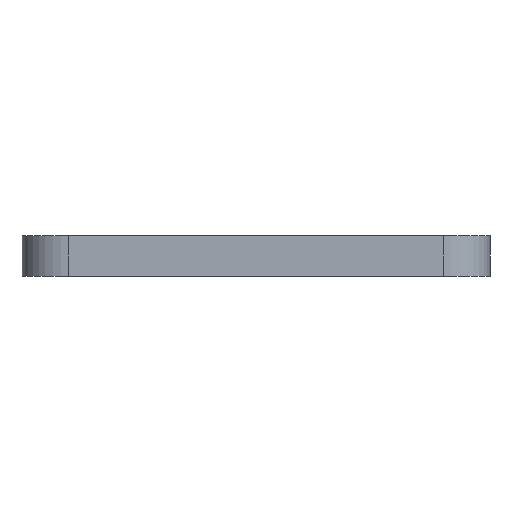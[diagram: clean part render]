
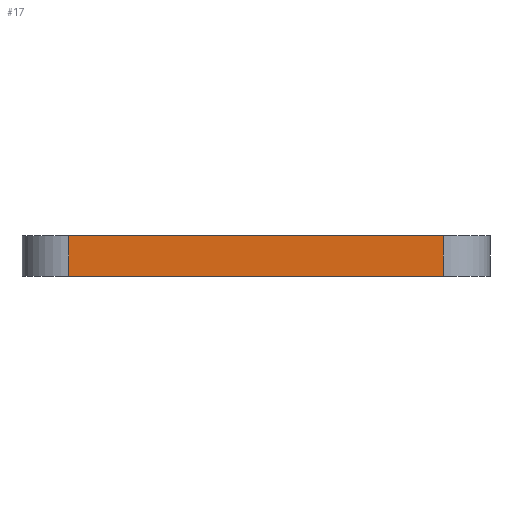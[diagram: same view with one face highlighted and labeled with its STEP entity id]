
A CAD part, left-side view. The second image highlights one B-rep face of the part: STEP entity #17.
In plain terms, the highlighted planar face has unit normal (-1, 0, 0).
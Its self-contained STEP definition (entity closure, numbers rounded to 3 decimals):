
#17 = ADVANCED_FACE('',(#18),#32,.F.);
#18 = FACE_BOUND('',#19,.F.);
#19 = EDGE_LOOP('',(#20,#55,#83,#111));
#20 = ORIENTED_EDGE('',*,*,#21,.F.);
#21 = EDGE_CURVE('',#22,#24,#26,.T.);
#22 = VERTEX_POINT('',#23);
#23 = CARTESIAN_POINT('',(-11.,-3.2,0.35));
#24 = VERTEX_POINT('',#25);
#25 = CARTESIAN_POINT('',(-11.,3.2,0.35));
#26 = SURFACE_CURVE('',#27,(#31,#43),.PCURVE_S1.);
#27 = LINE('',#28,#29);
#28 = CARTESIAN_POINT('',(-11.,-4.,0.35));
#29 = VECTOR('',#30,1.);
#30 = DIRECTION('',(0.,1.,0.));
#31 = PCURVE('',#32,#37);
#32 = PLANE('',#33);
#33 = AXIS2_PLACEMENT_3D('',#34,#35,#36);
#34 = CARTESIAN_POINT('',(-11.,-4.,-0.35));
#35 = DIRECTION('',(1.,0.,0.));
#36 = DIRECTION('',(0.,0.,1.));
#37 = DEFINITIONAL_REPRESENTATION('',(#38),#42);
#38 = LINE('',#39,#40);
#39 = CARTESIAN_POINT('',(0.7,0.));
#40 = VECTOR('',#41,1.);
#41 = DIRECTION('',(0.,-1.));
#42 = ( GEOMETRIC_REPRESENTATION_CONTEXT(2) 
PARAMETRIC_REPRESENTATION_CONTEXT() REPRESENTATION_CONTEXT('2D SPACE',''
  ) );
#43 = PCURVE('',#44,#49);
#44 = PLANE('',#45);
#45 = AXIS2_PLACEMENT_3D('',#46,#47,#48);
#46 = CARTESIAN_POINT('',(-11.,-4.,0.35));
#47 = DIRECTION('',(0.,0.,1.));
#48 = DIRECTION('',(1.,0.,0.));
#49 = DEFINITIONAL_REPRESENTATION('',(#50),#54);
#50 = LINE('',#51,#52);
#51 = CARTESIAN_POINT('',(0.,0.));
#52 = VECTOR('',#53,1.);
#53 = DIRECTION('',(0.,1.));
#54 = ( GEOMETRIC_REPRESENTATION_CONTEXT(2) 
PARAMETRIC_REPRESENTATION_CONTEXT() REPRESENTATION_CONTEXT('2D SPACE',''
  ) );
#55 = ORIENTED_EDGE('',*,*,#56,.F.);
#56 = EDGE_CURVE('',#57,#22,#59,.T.);
#57 = VERTEX_POINT('',#58);
#58 = CARTESIAN_POINT('',(-11.,-3.2,-0.35));
#59 = SURFACE_CURVE('',#60,(#64,#71),.PCURVE_S1.);
#60 = LINE('',#61,#62);
#61 = CARTESIAN_POINT('',(-11.,-3.2,-0.35));
#62 = VECTOR('',#63,1.);
#63 = DIRECTION('',(0.,0.,1.));
#64 = PCURVE('',#32,#65);
#65 = DEFINITIONAL_REPRESENTATION('',(#66),#70);
#66 = LINE('',#67,#68);
#67 = CARTESIAN_POINT('',(0.,-0.8));
#68 = VECTOR('',#69,1.);
#69 = DIRECTION('',(1.,0.));
#70 = ( GEOMETRIC_REPRESENTATION_CONTEXT(2) 
PARAMETRIC_REPRESENTATION_CONTEXT() REPRESENTATION_CONTEXT('2D SPACE',''
  ) );
#71 = PCURVE('',#72,#77);
#72 = CYLINDRICAL_SURFACE('',#73,0.8);
#73 = AXIS2_PLACEMENT_3D('',#74,#75,#76);
#74 = CARTESIAN_POINT('',(-10.2,-3.2,-0.35));
#75 = DIRECTION('',(0.,0.,1.));
#76 = DIRECTION('',(-1.,-0.,0.));
#77 = DEFINITIONAL_REPRESENTATION('',(#78),#82);
#78 = LINE('',#79,#80);
#79 = CARTESIAN_POINT('',(0.,0.));
#80 = VECTOR('',#81,1.);
#81 = DIRECTION('',(0.,1.));
#82 = ( GEOMETRIC_REPRESENTATION_CONTEXT(2) 
PARAMETRIC_REPRESENTATION_CONTEXT() REPRESENTATION_CONTEXT('2D SPACE',''
  ) );
#83 = ORIENTED_EDGE('',*,*,#84,.T.);
#84 = EDGE_CURVE('',#57,#85,#87,.T.);
#85 = VERTEX_POINT('',#86);
#86 = CARTESIAN_POINT('',(-11.,3.2,-0.35));
#87 = SURFACE_CURVE('',#88,(#92,#99),.PCURVE_S1.);
#88 = LINE('',#89,#90);
#89 = CARTESIAN_POINT('',(-11.,-4.,-0.35));
#90 = VECTOR('',#91,1.);
#91 = DIRECTION('',(0.,1.,0.));
#92 = PCURVE('',#32,#93);
#93 = DEFINITIONAL_REPRESENTATION('',(#94),#98);
#94 = LINE('',#95,#96);
#95 = CARTESIAN_POINT('',(0.,0.));
#96 = VECTOR('',#97,1.);
#97 = DIRECTION('',(0.,-1.));
#98 = ( GEOMETRIC_REPRESENTATION_CONTEXT(2) 
PARAMETRIC_REPRESENTATION_CONTEXT() REPRESENTATION_CONTEXT('2D SPACE',''
  ) );
#99 = PCURVE('',#100,#105);
#100 = PLANE('',#101);
#101 = AXIS2_PLACEMENT_3D('',#102,#103,#104);
#102 = CARTESIAN_POINT('',(-11.,-4.,-0.35));
#103 = DIRECTION('',(0.,0.,1.));
#104 = DIRECTION('',(1.,0.,0.));
#105 = DEFINITIONAL_REPRESENTATION('',(#106),#110);
#106 = LINE('',#107,#108);
#107 = CARTESIAN_POINT('',(0.,0.));
#108 = VECTOR('',#109,1.);
#109 = DIRECTION('',(0.,1.));
#110 = ( GEOMETRIC_REPRESENTATION_CONTEXT(2) 
PARAMETRIC_REPRESENTATION_CONTEXT() REPRESENTATION_CONTEXT('2D SPACE',''
  ) );
#111 = ORIENTED_EDGE('',*,*,#112,.T.);
#112 = EDGE_CURVE('',#85,#24,#113,.T.);
#113 = SURFACE_CURVE('',#114,(#118,#125),.PCURVE_S1.);
#114 = LINE('',#115,#116);
#115 = CARTESIAN_POINT('',(-11.,3.2,-0.35));
#116 = VECTOR('',#117,1.);
#117 = DIRECTION('',(0.,0.,1.));
#118 = PCURVE('',#32,#119);
#119 = DEFINITIONAL_REPRESENTATION('',(#120),#124);
#120 = LINE('',#121,#122);
#121 = CARTESIAN_POINT('',(0.,-7.2));
#122 = VECTOR('',#123,1.);
#123 = DIRECTION('',(1.,0.));
#124 = ( GEOMETRIC_REPRESENTATION_CONTEXT(2) 
PARAMETRIC_REPRESENTATION_CONTEXT() REPRESENTATION_CONTEXT('2D SPACE',''
  ) );
#125 = PCURVE('',#126,#131);
#126 = CYLINDRICAL_SURFACE('',#127,0.8);
#127 = AXIS2_PLACEMENT_3D('',#128,#129,#130);
#128 = CARTESIAN_POINT('',(-10.2,3.2,-0.35));
#129 = DIRECTION('',(0.,0.,1.));
#130 = DIRECTION('',(-1.,-0.,0.));
#131 = DEFINITIONAL_REPRESENTATION('',(#132),#136);
#132 = LINE('',#133,#134);
#133 = CARTESIAN_POINT('',(-0.,0.));
#134 = VECTOR('',#135,1.);
#135 = DIRECTION('',(-0.,1.));
#136 = ( GEOMETRIC_REPRESENTATION_CONTEXT(2) 
PARAMETRIC_REPRESENTATION_CONTEXT() REPRESENTATION_CONTEXT('2D SPACE',''
  ) );
